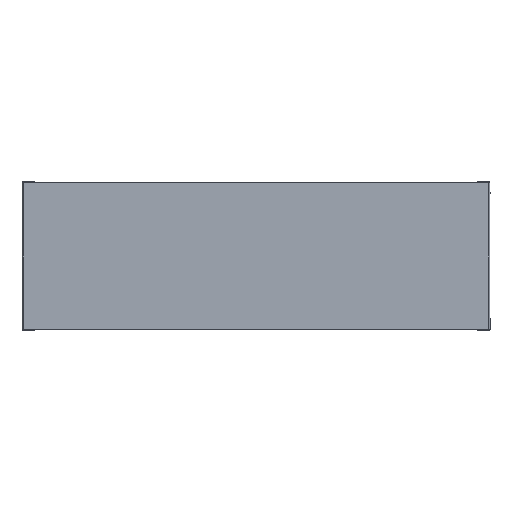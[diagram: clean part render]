
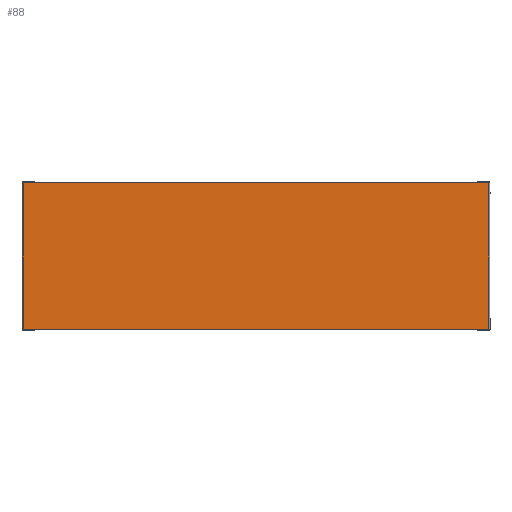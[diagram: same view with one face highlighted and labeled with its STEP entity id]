
A CAD part, front view. The second image highlights one B-rep face of the part: STEP entity #88.
In plain terms, the highlighted planar face has unit normal (0, -1, 0).
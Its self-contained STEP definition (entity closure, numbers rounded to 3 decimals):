
#43 = EDGE_CURVE ( 'NONE', #2574, #714, #1623, .T. ) ;
#88 = ADVANCED_FACE ( 'NONE', ( #2329 ), #2802, .F. ) ;
#121 = CARTESIAN_POINT ( 'NONE',  ( 0., -1., 0. ) ) ;
#230 = CARTESIAN_POINT ( 'NONE',  ( -597.5, -1., 187.5 ) ) ;
#246 = CARTESIAN_POINT ( 'NONE',  ( 597.5, -1., -187.5 ) ) ;
#265 = VERTEX_POINT ( 'NONE', #1733 ) ;
#489 = LINE ( 'NONE', #943, #2918 ) ;
#548 = VECTOR ( 'NONE', #1632, 1000. ) ;
#650 = CARTESIAN_POINT ( 'NONE',  ( -597.5, -1., -187.5 ) ) ;
#714 = VERTEX_POINT ( 'NONE', #246 ) ;
#740 = ORIENTED_EDGE ( 'NONE', *, *, #3079, .T. ) ;
#775 = DIRECTION ( 'NONE',  ( -1., 0., 0. ) ) ;
#943 = CARTESIAN_POINT ( 'NONE',  ( -597.5, -1., 190. ) ) ;
#1045 = VECTOR ( 'NONE', #1580, 1000. ) ;
#1125 = DIRECTION ( 'NONE',  ( 0., 1., 0. ) ) ;
#1580 = DIRECTION ( 'NONE',  ( 1., 0., 0. ) ) ;
#1623 = LINE ( 'NONE', #650, #1045 ) ;
#1632 = DIRECTION ( 'NONE',  ( 0., 0., 1. ) ) ;
#1733 = CARTESIAN_POINT ( 'NONE',  ( 597.5, -1., 187.5 ) ) ;
#1758 = AXIS2_PLACEMENT_3D ( 'NONE', #121, #1125, #2864 ) ;
#1937 = EDGE_LOOP ( 'NONE', ( #2136, #3158, #740, #2205 ) ) ;
#2063 = CARTESIAN_POINT ( 'NONE',  ( -597.5, -1., -187.5 ) ) ;
#2136 = ORIENTED_EDGE ( 'NONE', *, *, #43, .T. ) ;
#2205 = ORIENTED_EDGE ( 'NONE', *, *, #2927, .T. ) ;
#2280 = EDGE_CURVE ( 'NONE', #714, #265, #2611, .T. ) ;
#2329 = FACE_OUTER_BOUND ( 'NONE', #1937, .T. ) ;
#2355 = CARTESIAN_POINT ( 'NONE',  ( 597.5, -1., -190. ) ) ;
#2454 = DIRECTION ( 'NONE',  ( 0., 0., -1. ) ) ;
#2549 = LINE ( 'NONE', #2985, #2958 ) ;
#2574 = VERTEX_POINT ( 'NONE', #2063 ) ;
#2611 = LINE ( 'NONE', #2355, #548 ) ;
#2802 = PLANE ( 'NONE',  #1758 ) ;
#2864 = DIRECTION ( 'NONE',  ( 0., 0., 1. ) ) ;
#2918 = VECTOR ( 'NONE', #2454, 1000. ) ;
#2927 = EDGE_CURVE ( 'NONE', #2994, #2574, #489, .T. ) ;
#2958 = VECTOR ( 'NONE', #775, 1000. ) ;
#2985 = CARTESIAN_POINT ( 'NONE',  ( 600., -1., 187.5 ) ) ;
#2994 = VERTEX_POINT ( 'NONE', #230 ) ;
#3079 = EDGE_CURVE ( 'NONE', #265, #2994, #2549, .T. ) ;
#3158 = ORIENTED_EDGE ( 'NONE', *, *, #2280, .T. ) ;
